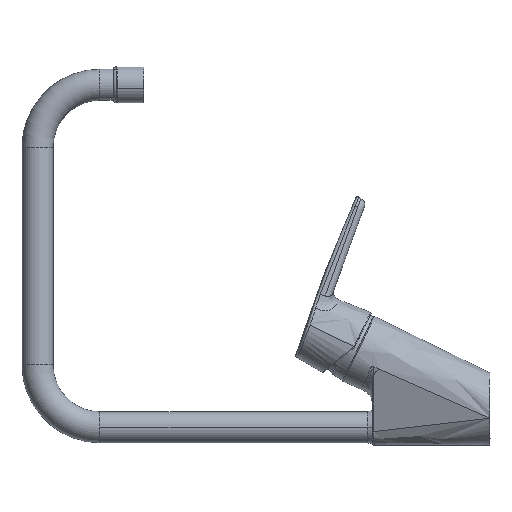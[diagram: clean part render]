
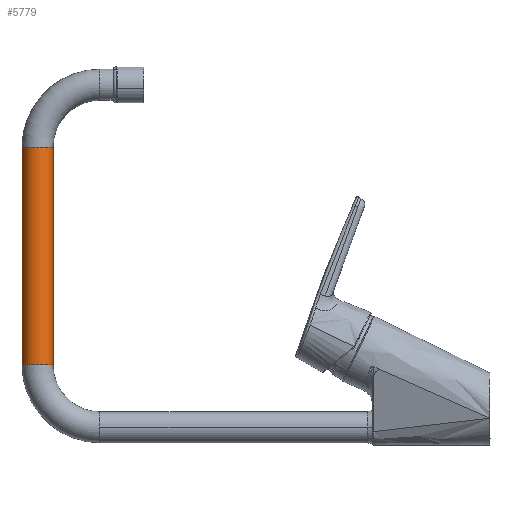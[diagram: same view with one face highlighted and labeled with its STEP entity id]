
A CAD part, left-side view. The second image highlights one B-rep face of the part: STEP entity #5779.
In plain terms, the highlighted cylindrical face has radius 10 mm (diameter 20 mm), a partial arc.
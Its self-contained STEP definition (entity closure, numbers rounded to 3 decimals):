
#235 = DIRECTION ( 'NONE',  ( 0., 0., -1. ) ) ;
#254 = CARTESIAN_POINT ( 'NONE',  ( 0., 300.7, 28.25 ) ) ;
#783 = ORIENTED_EDGE ( 'NONE', *, *, #9132, .T. ) ;
#2707 = DIRECTION ( 'NONE',  ( 0., 0., -1. ) ) ;
#2970 = ORIENTED_EDGE ( 'NONE', *, *, #11687, .T. ) ;
#3127 = EDGE_CURVE ( 'NONE', #3766, #4277, #8650, .T. ) ;
#3299 = CARTESIAN_POINT ( 'NONE',  ( 0., 290.7, 168.25 ) ) ;
#3766 = VERTEX_POINT ( 'NONE', #9782 ) ;
#4235 = ORIENTED_EDGE ( 'NONE', *, *, #5466, .F. ) ;
#4277 = VERTEX_POINT ( 'NONE', #254 ) ;
#4660 = AXIS2_PLACEMENT_3D ( 'NONE', #9100, #235, #10577 ) ;
#4791 = DIRECTION ( 'NONE',  ( 0., 0., -1. ) ) ;
#4930 = AXIS2_PLACEMENT_3D ( 'NONE', #3299, #4791, #15094 ) ;
#5043 = EDGE_LOOP ( 'NONE', ( #4235, #783, #2970, #11637 ) ) ;
#5407 = LINE ( 'NONE', #13289, #9351 ) ;
#5466 = EDGE_CURVE ( 'NONE', #8492, #3766, #5407, .T. ) ;
#5594 = DIRECTION ( 'NONE',  ( 0., 0., -1. ) ) ;
#5779 = ADVANCED_FACE ( 'NONE', ( #10267 ), #18575, .T. ) ;
#6221 = CIRCLE ( 'NONE', #4660, 10. ) ;
#8492 = VERTEX_POINT ( 'NONE', #14697 ) ;
#8650 = CIRCLE ( 'NONE', #16888, 10. ) ;
#9100 = CARTESIAN_POINT ( 'NONE',  ( 0., 290.7, 168.25 ) ) ;
#9132 = EDGE_CURVE ( 'NONE', #8492, #13065, #6221, .T. ) ;
#9351 = VECTOR ( 'NONE', #17771, 1000. ) ;
#9782 = CARTESIAN_POINT ( 'NONE',  ( 0., 280.7, 28.25 ) ) ;
#10267 = FACE_OUTER_BOUND ( 'NONE', #5043, .T. ) ;
#10577 = DIRECTION ( 'NONE',  ( 0., 1., 0. ) ) ;
#11544 = CARTESIAN_POINT ( 'NONE',  ( 0., 290.7, 28.25 ) ) ;
#11637 = ORIENTED_EDGE ( 'NONE', *, *, #3127, .F. ) ;
#11687 = EDGE_CURVE ( 'NONE', #13065, #4277, #18907, .T. ) ;
#11988 = VECTOR ( 'NONE', #5594, 1000. ) ;
#13018 = DIRECTION ( 'NONE',  ( 0., 1., 0. ) ) ;
#13065 = VERTEX_POINT ( 'NONE', #16842 ) ;
#13289 = CARTESIAN_POINT ( 'NONE',  ( 0., 280.7, 168.25 ) ) ;
#14398 = CARTESIAN_POINT ( 'NONE',  ( 0., 300.7, 168.25 ) ) ;
#14697 = CARTESIAN_POINT ( 'NONE',  ( 0., 280.7, 168.25 ) ) ;
#15094 = DIRECTION ( 'NONE',  ( 0., 1., 0. ) ) ;
#16842 = CARTESIAN_POINT ( 'NONE',  ( 0., 300.7, 168.25 ) ) ;
#16888 = AXIS2_PLACEMENT_3D ( 'NONE', #11544, #2707, #13018 ) ;
#17771 = DIRECTION ( 'NONE',  ( 0., 0., -1. ) ) ;
#18575 = CYLINDRICAL_SURFACE ( 'NONE', #4930, 10. ) ;
#18907 = LINE ( 'NONE', #14398, #11988 ) ;
